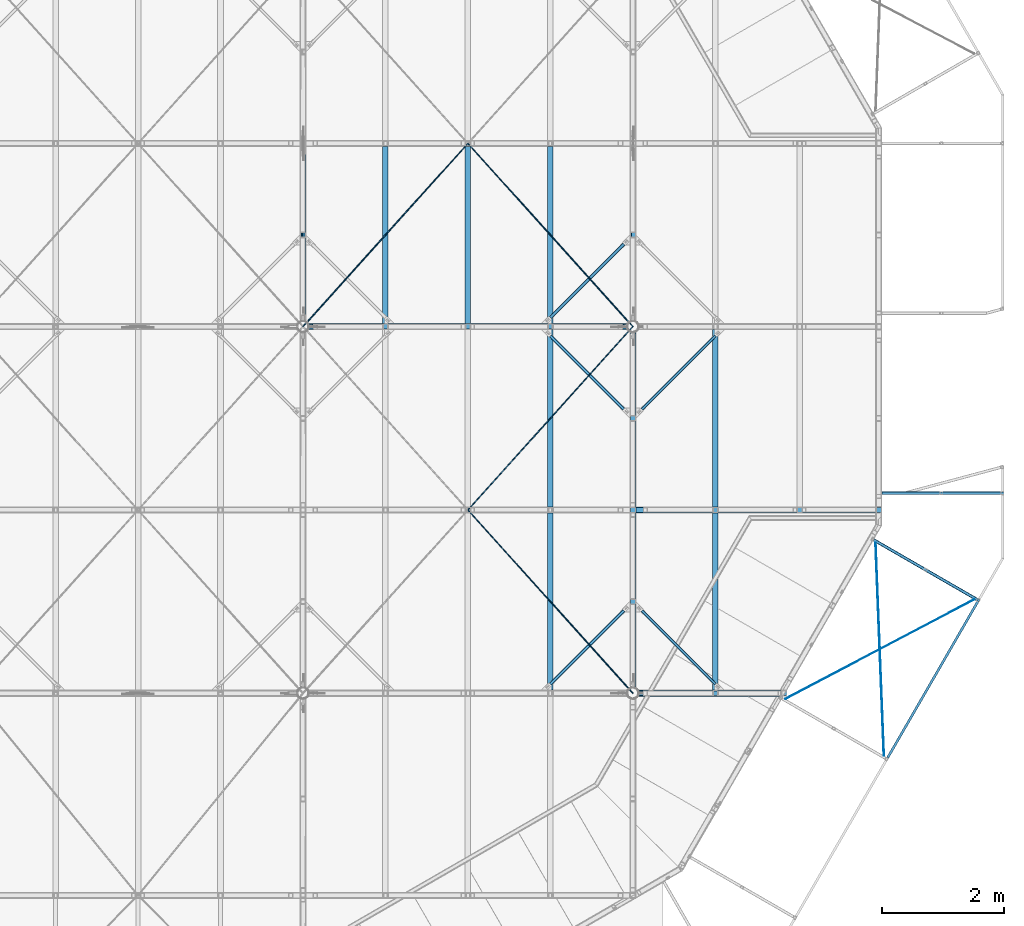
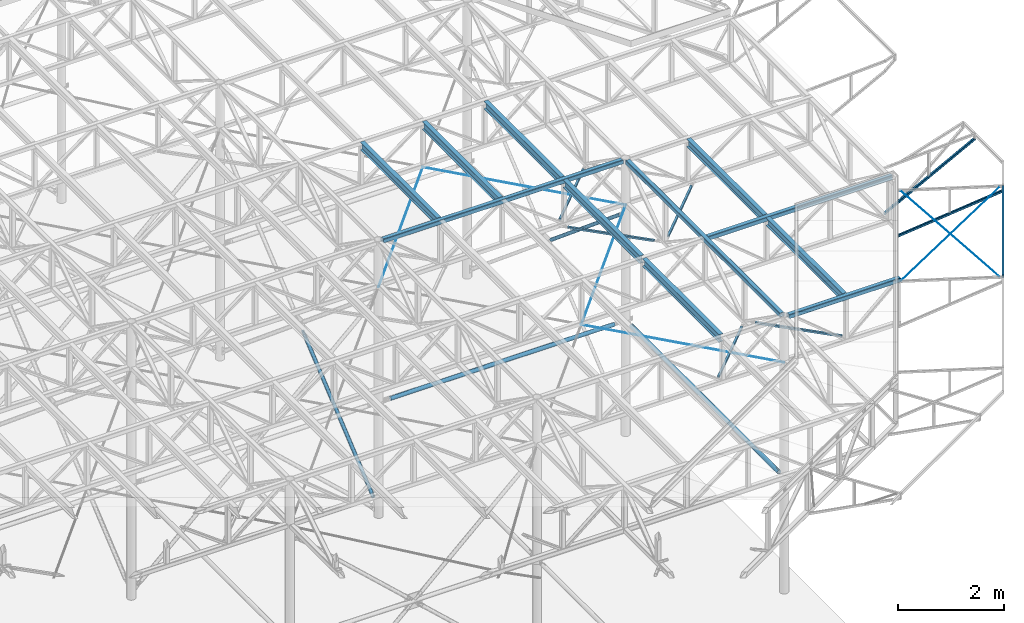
# One storey, part 14 of 132: 25 beams, 5 members, 30 elements without a shape of their own.
"""IFC2X3 building model written with IfcOpenShell, lengths in millimetres."""

from ifc_helpers import new_model, si_unit, frame, origin_with_axes, origin_2d_with_axis, place, context, subcontext, project, spatial, rectangle, hollow_rectangle, circle, hollow_circle, i_section, u_section, extrude, boolean, clip, halfspace, material, type_object, element, aggregate, save


model = new_model("IFC2X3")

# Units and contexts
model_context = context("Model", 3, precision=1e-05, world=origin_with_axes())
body_context = subcontext(model_context, "Body", "Model", "MODEL_VIEW")
ifc_project = project(units=[si_unit("LENGTHUNIT", "METRE", prefix="MILLI"), si_unit("AREAUNIT", "SQUARE_METRE"), si_unit("VOLUMEUNIT", "CUBIC_METRE"), si_unit("MASSUNIT", "GRAM", prefix="KILO"), si_unit("TIMEUNIT", "SECOND"), si_unit("PLANEANGLEUNIT", "RADIAN"), si_unit("SOLIDANGLEUNIT", "STERADIAN"), si_unit("THERMODYNAMICTEMPERATUREUNIT", "DEGREE_CELSIUS"), si_unit("LUMINOUSINTENSITYUNIT", "LUMEN")], contexts=[model_context])

# Site, building, storey
site_placement = place(None, origin_with_axes())
site = spatial("IfcSite", under=ifc_project, at=site_placement, Name="Budowa", CompositionType="ELEMENT")
building_placement = place(site_placement, origin_with_axes())
building = spatial("IfcBuilding", under=site, at=building_placement, Name="Undefined", CompositionType="ELEMENT")
storey_placement = place(building_placement, origin_with_axes())
storey = spatial("IfcBuildingStorey", under=building, at=storey_placement, Name="Undefined", CompositionType="ELEMENT", Elevation=0.0)

# Assembly, member
assembly_1_placement = place(storey_placement, origin_with_axes())
assembly_1 = element("IfcElementAssembly", 1, at=assembly_1_placement, inside=storey, Name="Steel Assembly", AssemblyPlace="NOTDEFINED", PredefinedType="RIGID_FRAME")
ifc_material_1 = material(Name="STEEL/S235JR")
member_type_1 = type_object("IfcMemberType", Name="CHS76.1*3", PredefinedType="NOTDEFINED")
member_1_placement = place(assembly_1_placement, frame((14833.000002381, 15000.0012512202, 10116.0002562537), z_axis=(-1.0, 0.0, 0.0), x_axis=(0.0, -0.769069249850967, -0.639165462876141)))
member_1 = element("IfcMember", 2, at=member_1_placement, type_object=member_type_1, material=ifc_material_1, Name="BEAM", ObjectType="CHS76.1*3", context=body_context, shape_type="CSG", body=[
    boolean("DIFFERENCE", boolean("DIFFERENCE", boolean("DIFFERENCE", boolean("DIFFERENCE", extrude(hollow_circle(Radius=38.05, WallThickness=3.0, at=origin_2d_with_axis()), frame((3633.55110961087, 0.0, 0.0), z_axis=(-1.0, 0.0, 0.0), x_axis=(0.0, -1.0, 0.0)), (0.0, 0.0, 1.0), 3395.69), extrude(rectangle(XDim=10.0, YDim=80.1, at=origin_2d_with_axis()), frame((318.860805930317, -8.477663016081e-13, 1.74539309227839e-06), z_axis=(-1.0, 0.0, 0.0), x_axis=(0.0, 0.0, 1.0)), (0.0, 0.0, 1.0), 83.0)), extrude(rectangle(XDim=10.0, YDim=78.0, at=origin_2d_with_axis()), frame((3552.55110960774, 4.53202460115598e-07, 2.41760790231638e-06), z_axis=(1.0, 0.0, 0.0), x_axis=(0.0, 0.0, 1.0)), (0.0, 0.0, 1.0), 93.0)), halfspace(frame((3633.55110960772, 4.53187567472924e-07, 12.0000024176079), z_axis=(-1.0, 0.0, 0.0), x_axis=(0.0, -1.0, 0.0)), True)), halfspace(frame((237.860802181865, 1.2732925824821e-11, 12.0000029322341), z_axis=(1.0, 0.0, 0.0), x_axis=(0.0, 1.0, 0.0)), True)),
])
aggregate(assembly_1, [member_1])

assembly_2_placement = place(storey_placement, origin_with_axes())
assembly_2 = element("IfcElementAssembly", 3, at=assembly_2_placement, inside=storey, Name="Steel Assembly", AssemblyPlace="NOTDEFINED", PredefinedType="RIGID_FRAME")
member_2_placement = place(assembly_2_placement, frame((20233.0000024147, 15000.0003165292, 10116.000758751), z_axis=(-1.0, 0.0, 0.0), x_axis=(0.0, -0.76906919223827, 0.639165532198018)))
member_2 = element("IfcMember", 4, at=member_2_placement, type_object=member_type_1, material=ifc_material_1, Name="BEAM", ObjectType="CHS76.1*3", context=body_context, shape_type="CSG", body=[
    boolean("DIFFERENCE", boolean("DIFFERENCE", boolean("DIFFERENCE", boolean("DIFFERENCE", extrude(hollow_circle(Radius=38.05, WallThickness=3.0, at=origin_2d_with_axis()), frame((3633.55016925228, 2.01702552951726e-13, 0.0), z_axis=(-1.0, 0.0, 0.0), x_axis=(0.0, -1.0, 0.0)), (0.0, 0.0, 1.0), 3395.69), extrude(rectangle(XDim=10.0, YDim=80.1, at=origin_2d_with_axis()), frame((318.860379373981, -4.43045600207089e-12, 2.01593366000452e-06), z_axis=(-1.0, 0.0, 0.0), x_axis=(0.0, 0.0, 1.0)), (0.0, 0.0, 1.0), 83.0)), extrude(rectangle(XDim=10.0, YDim=78.0, at=origin_2d_with_axis()), frame((3552.55016925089, 7.63649267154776e-08, 2.41727320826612e-06), z_axis=(1.0, 0.0, 0.0), x_axis=(0.0, 0.0, 1.0)), (0.0, 0.0, 1.0), 93.0)), halfspace(frame((3633.55016925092, 7.63648131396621e-08, 12.0000024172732), z_axis=(-1.0, 0.0, 0.0), x_axis=(0.0, -1.0, 0.0)), True)), halfspace(frame((237.860375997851, -1.09139364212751e-11, 12.0000032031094), z_axis=(1.0, 0.0, 0.0), x_axis=(0.0, 1.0, 0.0)), True)),
])
aggregate(assembly_2, [member_2])

# Assembly, beam
assembly_3_placement = place(storey_placement, origin_with_axes())
assembly_3 = element("IfcElementAssembly", 5, at=assembly_3_placement, inside=storey, Name="Steel Assembly", AssemblyPlace="NOTDEFINED", PredefinedType="RIGID_FRAME")
beam_type_1 = type_object("IfcBeamType", Name="CHS88.9*3", PredefinedType="NOTDEFINED")
beam_1_placement = place(assembly_3_placement, frame((14913.9011382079, 11998.0000028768, 10116.0003779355), z_axis=(0.0, -1.0, 0.0), x_axis=(1.0, 0.0, 0.0)))
beam_1 = element("IfcBeam", 6, at=beam_1_placement, type_object=beam_type_1, material=ifc_material_1, Name="BEAM", ObjectType="CHS88.9*3", context=body_context, shape_type="CSG", body=[
    boolean("DIFFERENCE", boolean("DIFFERENCE", boolean("DIFFERENCE", boolean("DIFFERENCE", boolean("DIFFERENCE", extrude(hollow_circle(Radius=44.45, WallThickness=3.0, at=origin_2d_with_axis()), frame((5057.96216744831, 0.0, 0.0), z_axis=(-1.0, 0.0, 0.0), x_axis=(0.0, -1.0, 0.0)), (0.0, 0.0, 1.0), 4893.73), extrude(rectangle(XDim=9.0, YDim=92.9, at=origin_2d_with_axis()), frame((265.235555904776, 1.81898940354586e-12, 3.42543353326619e-06), z_axis=(-1.0, 0.0, 0.0), x_axis=(0.0, 0.0, 1.0)), (0.0, 0.0, 1.0), 103.0)), extrude(rectangle(XDim=9.0, YDim=92.9, at=origin_2d_with_axis()), frame((4956.96216744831, 1.81898940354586e-12, 3.42543353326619e-06), z_axis=(1.0, 0.0, 0.0), x_axis=(0.0, 0.0, -1.0)), (0.0, 0.0, 1.0), 103.0)), extrude(rectangle(XDim=8.0, YDim=80.1, at=origin_2d_with_axis()), frame((5006.96216666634, 0.0, 2.93223274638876e-06), z_axis=(1.0, 0.0, 0.0), x_axis=(0.0, 0.0, 1.0)), (0.0, 0.0, 1.0), 82.0)), halfspace(frame((5057.96216744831, 1.81898940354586e-12, -11.9999965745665), z_axis=(-1.0, 0.0, 0.0), x_axis=(0.0, 1.0, 0.0)), True)), halfspace(frame((164.235555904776, 1.81898940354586e-12, -11.9999965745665), z_axis=(1.0, 0.0, 0.0), x_axis=(0.0, 0.0, 1.0)), True)),
])
aggregate(assembly_3, [beam_1])

assembly_4_placement = place(storey_placement, origin_with_axes())
assembly_4 = element("IfcElementAssembly", 7, at=assembly_4_placement, inside=storey, Name="Steel Assembly", AssemblyPlace="NOTDEFINED", PredefinedType="RIGID_FRAME")
beam_2_placement = place(assembly_4_placement, frame((20232.9999935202, 6088.90000004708, 10116.0003779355), z_axis=(1.0, 0.0, 0.0), x_axis=(0.0, 1.0, 0.0)))
beam_2 = element("IfcBeam", 8, at=beam_2_placement, type_object=beam_type_1, material=ifc_material_1, Name="BEAM", ObjectType="CHS88.9*3", context=body_context, shape_type="CSG", body=[
    boolean("DIFFERENCE", boolean("DIFFERENCE", boolean("DIFFERENCE", boolean("DIFFERENCE", extrude(hollow_circle(Radius=44.45, WallThickness=3.0, at=origin_2d_with_axis()), frame((5703.19209466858, 0.0, 0.0), z_axis=(-1.0, 0.0, 0.0), x_axis=(0.0, -1.0, 0.0)), (0.0, 0.0, 1.0), 5584.18), extrude(rectangle(XDim=9.0, YDim=92.9, at=origin_2d_with_axis()), frame((5602.19209466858, 0.0, 3.70549059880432e-06), z_axis=(1.0, 0.0, 0.0), x_axis=(0.0, 0.0, -1.0)), (0.0, 0.0, 1.0), 103.0)), extrude(rectangle(XDim=9.0, YDim=92.9, at=origin_2d_with_axis()), frame((220.00790537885, 0.0, 3.42542261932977e-06), z_axis=(-1.0, 0.0, 0.0), x_axis=(0.0, 0.0, -1.0)), (0.0, 0.0, 1.0), 103.0)), halfspace(frame((5703.19209466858, 0.0, -11.9999962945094), z_axis=(-1.0, 0.0, 0.0), x_axis=(0.0, 1.0, 0.0)), True)), halfspace(frame((119.00790537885, 0.0, -11.9999965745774), z_axis=(1.0, 0.0, 0.0), x_axis=(0.0, -1.0, 0.0)), True)),
])
aggregate(assembly_4, [beam_2])

# Assembly, member
assembly_5_placement = place(storey_placement, origin_with_axes())
assembly_5 = element("IfcElementAssembly", 9, at=assembly_5_placement, inside=storey, Name="Steel Assembly", AssemblyPlace="NOTDEFINED", PredefinedType="RIGID_FRAME")
ifc_material_2 = material(Name="STEEL/S235")
member_type_2 = type_object("IfcMemberType", Name="CHS60.3*6.3", PredefinedType="NOTDEFINED")
member_3_placement = place(assembly_5_placement, frame((14833.000002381, 15000.0012512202, 10116.0002562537), z_axis=(-1.0, 0.0, 0.0), x_axis=(0.0, -0.769069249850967, -0.639165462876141)))
member_3 = element("IfcMember", 10, at=member_3_placement, type_object=member_type_2, material=ifc_material_2, Name="BEAM", ObjectType="CHS60.3*6.3", context=body_context, shape_type="CSG", body=[
    boolean("DIFFERENCE", boolean("DIFFERENCE", boolean("DIFFERENCE", boolean("DIFFERENCE", extrude(hollow_circle(Radius=30.15, WallThickness=6.3, at=origin_2d_with_axis()), frame((3643.55110941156, 0.0, 0.0), z_axis=(-1.0, 0.0, 0.0), x_axis=(0.0, -1.0, 0.0)), (0.0, 0.0, 1.0), 3497.1), extrude(rectangle(XDim=8.0, YDim=64.3, at=origin_2d_with_axis()), frame((3593.55110940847, -4.69471128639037e-11, 2.68942449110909e-06), z_axis=(1.0, 0.0, 0.0), x_axis=(0.0, 0.0, 1.0)), (0.0, 0.0, 1.0), 52.0)), extrude(rectangle(XDim=8.0, YDim=64.3, at=origin_2d_with_axis()), frame((196.449653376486, -1.06803454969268e-13, 2.32343882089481e-06), z_axis=(-1.0, 0.0, 0.0), x_axis=(0.0, 0.0, 1.0)), (0.0, 0.0, 1.0), 52.0)), halfspace(frame((3643.55110940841, -4.72937244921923e-11, 12.0000026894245), z_axis=(-1.0, 0.0, 0.0), x_axis=(0.0, -1.0, 0.0)), True)), halfspace(frame((146.449653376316, -6.3664629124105e-12, 12.0000023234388), z_axis=(1.0, 0.0, 0.0), x_axis=(0.0, 1.0, 0.0)), True)),
])
aggregate(assembly_5, [member_3])

# Assembly, beam
assembly_6_placement = place(storey_placement, origin_with_axes())
assembly_6 = element("IfcElementAssembly", 11, at=assembly_6_placement, inside=storey, Name="Steel Assembly", AssemblyPlace="NOTDEFINED", PredefinedType="RIGID_FRAME")
beam_type_2 = type_object("IfcBeamType", Name="IPE180", PredefinedType="NOTDEFINED")
beam_3_placement = place(assembly_6_placement, frame((21573.8999999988, 9050.0000000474, 13790.0), z_axis=(0.0, 0.0, 1.0), x_axis=(0.0, 1.0, 0.0)))
beam_3 = element("IfcBeam", 12, at=beam_3_placement, type_object=beam_type_2, material=ifc_material_2, Name="BEAM", ObjectType="IPE180", context=body_context, shape_type="SweptSolid", body=[
    extrude(i_section(OverallWidth=91.0, OverallDepth=180.0, WebThickness=5.300000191, FlangeThickness=8.0, FilletRadius=9.0, at=origin_2d_with_axis()), frame((2900.00000000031, 0.0, 0.0), z_axis=(-1.0, 0.0, 0.0), x_axis=(0.0, -1.0, 0.0)), (0.0, 0.0, 1.0), 2900.0),
])
aggregate(assembly_6, [beam_3])

assembly_7_placement = place(storey_placement, origin_with_axes())
assembly_7 = element("IfcElementAssembly", 13, at=assembly_7_placement, inside=storey, Name="Steel Assembly", AssemblyPlace="NOTDEFINED", PredefinedType="RIGID_FRAME")
beam_4_placement = place(assembly_7_placement, frame((21573.8999999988, 6050.00000004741, 13790.0), z_axis=(0.0, 0.0, 1.0), x_axis=(0.0, 1.0, 0.0)))
beam_4 = element("IfcBeam", 14, at=beam_4_placement, type_object=beam_type_2, material=ifc_material_2, Name="BEAM", ObjectType="IPE180", context=body_context, shape_type="SweptSolid", body=[
    extrude(i_section(OverallWidth=91.0, OverallDepth=180.0, WebThickness=5.300000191, FlangeThickness=8.0, FilletRadius=9.0, at=origin_2d_with_axis()), frame((2900.00000000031, 0.0, 0.0), z_axis=(-1.0, 0.0, 0.0), x_axis=(0.0, -1.0, 0.0)), (0.0, 0.0, 1.0), 2900.0),
])
aggregate(assembly_7, [beam_4])

assembly_8_placement = place(storey_placement, origin_with_axes())
assembly_8 = element("IfcElementAssembly", 15, at=assembly_8_placement, inside=storey, Name="Steel Assembly", AssemblyPlace="NOTDEFINED", PredefinedType="RIGID_FRAME")
beam_5_placement = place(assembly_8_placement, frame((16174.9999999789, 12050.000000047, 13790.0), z_axis=(0.0, 0.0, 1.0), x_axis=(0.0, 1.0, 0.0)))
beam_5 = element("IfcBeam", 16, at=beam_5_placement, type_object=beam_type_2, material=ifc_material_2, Name="BEAM", ObjectType="IPE180", context=body_context, shape_type="SweptSolid", body=[
    extrude(i_section(OverallWidth=91.0, OverallDepth=180.0, WebThickness=5.300000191, FlangeThickness=8.0, FilletRadius=9.0, at=origin_2d_with_axis()), frame((2900.00000000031, 0.0, 0.0), z_axis=(-1.0, 0.0, 0.0), x_axis=(0.0, -1.0, 0.0)), (0.0, 0.0, 1.0), 2900.0),
])
aggregate(assembly_8, [beam_5])

assembly_9_placement = place(storey_placement, origin_with_axes())
assembly_9 = element("IfcElementAssembly", 17, at=assembly_9_placement, inside=storey, Name="Steel Assembly", AssemblyPlace="NOTDEFINED", PredefinedType="RIGID_FRAME")
beam_6_placement = place(assembly_9_placement, frame((18874.9999999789, 12050.000000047, 13790.0), z_axis=(0.0, 0.0, 1.0), x_axis=(0.0, 1.0, 0.0)))
beam_6 = element("IfcBeam", 18, at=beam_6_placement, type_object=beam_type_2, material=ifc_material_2, Name="BEAM", ObjectType="IPE180", context=body_context, shape_type="SweptSolid", body=[
    extrude(i_section(OverallWidth=91.0, OverallDepth=180.0, WebThickness=5.300000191, FlangeThickness=8.0, FilletRadius=9.0, at=origin_2d_with_axis()), frame((2900.00000000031, 0.0, 0.0), z_axis=(-1.0, 0.0, 0.0), x_axis=(0.0, -1.0, 0.0)), (0.0, 0.0, 1.0), 2900.0),
])
aggregate(assembly_9, [beam_6])

assembly_10_placement = place(storey_placement, origin_with_axes())
assembly_10 = element("IfcElementAssembly", 19, at=assembly_10_placement, inside=storey, Name="Steel Assembly", AssemblyPlace="NOTDEFINED", PredefinedType="RIGID_FRAME")
beam_7_placement = place(assembly_10_placement, frame((18874.9999999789, 9050.00000004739, 13790.0), z_axis=(0.0, 0.0, 1.0), x_axis=(0.0, 1.0, 0.0)))
beam_7 = element("IfcBeam", 20, at=beam_7_placement, type_object=beam_type_2, material=ifc_material_2, Name="BEAM", ObjectType="IPE180", context=body_context, shape_type="SweptSolid", body=[
    extrude(i_section(OverallWidth=91.0, OverallDepth=180.0, WebThickness=5.300000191, FlangeThickness=8.0, FilletRadius=9.0, at=origin_2d_with_axis()), frame((2900.00000000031, 0.0, 0.0), z_axis=(-1.0, 0.0, 0.0), x_axis=(0.0, -1.0, 0.0)), (0.0, 0.0, 1.0), 2900.0),
])
aggregate(assembly_10, [beam_7])

assembly_11_placement = place(storey_placement, origin_with_axes())
assembly_11 = element("IfcElementAssembly", 21, at=assembly_11_placement, inside=storey, Name="Steel Assembly", AssemblyPlace="NOTDEFINED", PredefinedType="RIGID_FRAME")
beam_8_placement = place(assembly_11_placement, frame((18874.9999999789, 6050.00000004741, 13790.0), z_axis=(0.0, 0.0, 1.0), x_axis=(0.0, 1.0, 0.0)))
beam_8 = element("IfcBeam", 22, at=beam_8_placement, type_object=beam_type_2, material=ifc_material_2, Name="BEAM", ObjectType="IPE180", context=body_context, shape_type="SweptSolid", body=[
    extrude(i_section(OverallWidth=91.0, OverallDepth=180.0, WebThickness=5.300000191, FlangeThickness=8.0, FilletRadius=9.0, at=origin_2d_with_axis()), frame((2900.00000000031, 0.0, 0.0), z_axis=(-1.0, 0.0, 0.0), x_axis=(0.0, -1.0, 0.0)), (0.0, 0.0, 1.0), 2900.0),
])
aggregate(assembly_11, [beam_8])

assembly_12_placement = place(storey_placement, origin_with_axes())
assembly_12 = element("IfcElementAssembly", 23, at=assembly_12_placement, inside=storey, Name="Steel Assembly", AssemblyPlace="NOTDEFINED", PredefinedType="RIGID_FRAME")
beam_9_placement = place(assembly_12_placement, frame((17524.9999999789, 12050.000000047, 13790.0), z_axis=(0.0, 0.0, 1.0), x_axis=(0.0, 1.0, 0.0)))
beam_9 = element("IfcBeam", 24, at=beam_9_placement, type_object=beam_type_2, material=ifc_material_2, Name="BEAM", ObjectType="IPE180", context=body_context, shape_type="SweptSolid", body=[
    extrude(i_section(OverallWidth=91.0, OverallDepth=180.0, WebThickness=5.300000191, FlangeThickness=8.0, FilletRadius=9.0, at=origin_2d_with_axis()), frame((2900.00000000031, 0.0, 0.0), z_axis=(-1.0, 0.0, 0.0), x_axis=(0.0, -1.0, 0.0)), (0.0, 0.0, 1.0), 2900.0),
])
aggregate(assembly_12, [beam_9])

assembly_13_placement = place(storey_placement, origin_with_axes())
assembly_13 = element("IfcElementAssembly", 25, at=assembly_13_placement, inside=storey, Name="Steel Assembly", AssemblyPlace="NOTDEFINED", PredefinedType="RIGID_FRAME")
beam_type_3 = type_object("IfcBeamType", Name="D10", PredefinedType="NOTDEFINED")
beam_10_placement = place(assembly_13_placement, frame((24335.3137186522, 4977.60334072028, 13945.5281319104), z_axis=(-0.0432481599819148, 0.0249672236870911, 0.998752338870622), x_axis=(-0.0391284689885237, 0.998878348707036, -0.0266647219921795)))
beam_10 = element("IfcBeam", 26, at=beam_10_placement, type_object=beam_type_3, material=ifc_material_2, Name="BEAM", ObjectType="D10", context=body_context, shape_type="SweptSolid", body=[
    extrude(circle(Radius=5.0, at=origin_2d_with_axis()), frame((3489.02120950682, 1.67199953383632e-13, 1.2104974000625e-14), z_axis=(-1.0, 0.0, 0.0), x_axis=(0.0, -1.0, 0.0)), (0.0, 0.0, 1.0), 3489.02),
])
aggregate(assembly_13, [beam_10])

assembly_14_placement = place(storey_placement, origin_with_axes())
assembly_14 = element("IfcElementAssembly", 27, at=assembly_14_placement, inside=storey, Name="Steel Assembly", AssemblyPlace="NOTDEFINED", PredefinedType="RIGID_FRAME")
beam_11_placement = place(assembly_14_placement, frame((25810.2200973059, 7532.43233197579, 13945.5281319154), z_axis=(-0.0432481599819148, 0.0249672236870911, 0.998752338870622), x_axis=(-0.884584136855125, -0.465617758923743, -0.026664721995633)))
beam_11 = element("IfcBeam", 28, at=beam_11_placement, type_object=beam_type_3, material=ifc_material_2, Name="BEAM", ObjectType="D10", context=body_context, shape_type="SweptSolid", body=[
    extrude(circle(Radius=5.0, at=origin_2d_with_axis()), frame((3489.02120950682, 1.67199953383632e-13, 1.2104974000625e-14), z_axis=(-1.0, 0.0, 0.0), x_axis=(0.0, -1.0, 0.0)), (0.0, 0.0, 1.0), 3489.02),
])
aggregate(assembly_14, [beam_11])

assembly_15_placement = place(storey_placement, origin_with_axes())
assembly_15 = element("IfcElementAssembly", 29, at=assembly_15_placement, inside=storey, Name="Steel Assembly", AssemblyPlace="NOTDEFINED", PredefinedType="RIGID_FRAME")
beam_type_4 = type_object("IfcBeamType", Name="C70*40*4", PredefinedType="NOTDEFINED")
beam_12_placement = place(assembly_15_placement, frame((24395.4282589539, 4942.89913146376, 13945.0050192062), z_axis=(0.0, 0.0, -1.0), x_axis=(0.499968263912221, 0.86604372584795, 0.0)))
beam_12 = element("IfcBeam", 30, at=beam_12_placement, type_object=beam_type_4, material=ifc_material_2, Name="BEAM", ObjectType="C70*40*4", context=body_context, shape_type="SweptSolid", body=[
    extrude(u_section(Depth=70.0, FlangeWidth=40.0, WebThickness=4.0, FlangeThickness=4.0, FilletRadius=6.0, at=origin_2d_with_axis()), frame((2949.99999995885, 1.63757896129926e-13, 0.0), z_axis=(-1.0, 0.0, 0.0), x_axis=(0.0, -1.0, 0.0)), (0.0, 0.0, 1.0), 2950.0),
])
aggregate(assembly_15, [beam_12])

# Assembly, member
assembly_16_placement = place(storey_placement, origin_with_axes())
assembly_16 = element("IfcElementAssembly", 31, at=assembly_16_placement, inside=storey, Name="Steel Assembly", AssemblyPlace="NOTDEFINED", PredefinedType="RIGID_FRAME")
member_type_3 = type_object("IfcMemberType", Name="SHS50*4", PredefinedType="NOTDEFINED")
member_4_placement = place(assembly_16_placement, frame((24288.2796111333, 9275.0435519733, 12802.1351883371), z_axis=(0.0, 1.0, 0.0), x_axis=(0.885407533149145, 0.0, 0.464815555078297)))
member_4 = element("IfcMember", 32, at=member_4_placement, type_object=member_type_3, material=ifc_material_2, Name="BEAM", ObjectType="SHS50*4", context=body_context, shape_type="Clipping", body=[
    clip(clip(extrude(hollow_rectangle(XDim=50.0, YDim=50.0, WallThickness=4.0, InnerFilletRadius=4.0, OuterFilletRadius=8.0, at=origin_2d_with_axis()), frame((2286.55526217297, 7.105427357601e-15, -1.81898940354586e-12), z_axis=(-1.0, 0.0, 0.0), x_axis=(0.0, -1.0, 0.0)), (0.0, 0.0, 1.0), 2286.56), halfspace(frame((26.2486785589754, -24.9999999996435, -25.0000000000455), z_axis=(-0.885407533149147, -0.464815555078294, 0.0), x_axis=(-0.464815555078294, 0.885407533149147, 0.0)), False)), halfspace(frame((2258.9602037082, 25.0000000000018, -1.41881173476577e-10), z_axis=(-0.855808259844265, 0.517293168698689, 0.0), x_axis=(0.0, 0.0, 1.0)), True)),
])
aggregate(assembly_16, [member_4])

assembly_17_placement = place(storey_placement, origin_with_axes())
assembly_17 = element("IfcElementAssembly", 33, at=assembly_17_placement, inside=storey, Name="Steel Assembly", AssemblyPlace="NOTDEFINED", PredefinedType="RIGID_FRAME")
member_5_placement = place(assembly_17_placement, frame((24157.91849754, 8515.17963885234, 12802.1351883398), z_axis=(-0.499969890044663, -0.866042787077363, 0.0), x_axis=(0.766800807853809, -0.442677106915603, 0.464815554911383)))
member_5 = element("IfcMember", 34, at=member_5_placement, type_object=member_type_3, material=ifc_material_2, Name="BEAM", ObjectType="SHS50*4", context=body_context, shape_type="Clipping", body=[
    clip(clip(extrude(hollow_rectangle(XDim=50.0, YDim=50.0, WallThickness=4.0, InnerFilletRadius=4.0, OuterFilletRadius=8.0, at=origin_2d_with_axis()), frame((2325.27637080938, 1.2907876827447e-13, 5.21059351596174e-14), z_axis=(-1.0, 0.0, 0.0), x_axis=(0.0, -1.0, 0.0)), (0.0, 0.0, 1.0), 2325.28), halfspace(frame((26.2486785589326, 24.9999999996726, -25.0000000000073), z_axis=(-0.885407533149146, 0.464815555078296, 0.0), x_axis=(0.0, 0.0, 1.0)), False)), halfspace(frame((2258.9602037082, -25.0000000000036, -1.40062184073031e-10), z_axis=(-0.855808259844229, -0.517293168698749, 0.0), x_axis=(0.0, 0.0, -1.0)), True)),
])
aggregate(assembly_17, [member_5])

# Assembly, beam
assembly_18_placement = place(storey_placement, origin_with_axes())
assembly_18 = element("IfcElementAssembly", 35, at=assembly_18_placement, inside=storey, Name="Steel Assembly", AssemblyPlace="NOTDEFINED", PredefinedType="RIGID_FRAME")
beam_type_5 = type_object("IfcBeamType", Name="D16", PredefinedType="NOTDEFINED")
beam_13_placement = place(assembly_18_placement, frame((17524.999998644, 15000.0000000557, 12780.0), z_axis=(0.0, 0.0, 1.0), x_axis=(-0.668964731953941, -0.743294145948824, 0.0)))
beam_13 = element("IfcBeam", 36, at=beam_13_placement, type_object=beam_type_5, material=ifc_material_2, Name="BEAM", ObjectType="D16", context=body_context, shape_type="SweptSolid", body=[
    extrude(circle(Radius=8.0, at=origin_2d_with_axis()), frame((4036.08721501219, 2.30699503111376e-13, 1.81898940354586e-12), z_axis=(-1.0, 0.0, 0.0), x_axis=(0.0, -1.0, 0.0)), (0.0, 0.0, 1.0), 4036.09),
])
aggregate(assembly_18, [beam_13])

assembly_19_placement = place(storey_placement, origin_with_axes())
assembly_19 = element("IfcElementAssembly", 37, at=assembly_19_placement, inside=storey, Name="Steel Assembly", AssemblyPlace="NOTDEFINED", PredefinedType="RIGID_FRAME")
beam_14_placement = place(assembly_19_placement, frame((20224.9999999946, 12000.0000000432, 12780.0), z_axis=(0.0, 0.0, 1.0), x_axis=(-0.668964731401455, 0.743294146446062, 0.0)))
beam_14 = element("IfcBeam", 38, at=beam_14_placement, type_object=beam_type_5, material=ifc_material_2, Name="BEAM", ObjectType="D16", context=body_context, shape_type="SweptSolid", body=[
    extrude(circle(Radius=8.0, at=origin_2d_with_axis()), frame((4036.08721501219, 2.30699503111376e-13, 1.81898940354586e-12), z_axis=(-1.0, 0.0, 0.0), x_axis=(0.0, -1.0, 0.0)), (0.0, 0.0, 1.0), 4036.09),
])
aggregate(assembly_19, [beam_14])

assembly_20_placement = place(storey_placement, origin_with_axes())
assembly_20 = element("IfcElementAssembly", 39, at=assembly_20_placement, inside=storey, Name="Steel Assembly", AssemblyPlace="NOTDEFINED", PredefinedType="RIGID_FRAME")
beam_15_placement = place(assembly_20_placement, frame((20224.9999999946, 12000.0000000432, 12780.0), z_axis=(0.0, 0.0, 1.0), x_axis=(-0.668964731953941, -0.743294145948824, 0.0)))
beam_15 = element("IfcBeam", 40, at=beam_15_placement, type_object=beam_type_5, material=ifc_material_2, Name="BEAM", ObjectType="D16", context=body_context, shape_type="SweptSolid", body=[
    extrude(circle(Radius=8.0, at=origin_2d_with_axis()), frame((4036.08721501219, 2.30699503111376e-13, 1.81898940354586e-12), z_axis=(-1.0, 0.0, 0.0), x_axis=(0.0, -1.0, 0.0)), (0.0, 0.0, 1.0), 4036.09),
])
aggregate(assembly_20, [beam_15])

assembly_21_placement = place(storey_placement, origin_with_axes())
assembly_21 = element("IfcElementAssembly", 41, at=assembly_21_placement, inside=storey, Name="Steel Assembly", AssemblyPlace="NOTDEFINED", PredefinedType="RIGID_FRAME")
beam_16_placement = place(assembly_21_placement, frame((20224.9999999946, 6000.00000004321, 12780.0), z_axis=(0.0, 0.0, 1.0), x_axis=(-0.668964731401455, 0.743294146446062, 0.0)))
beam_16 = element("IfcBeam", 42, at=beam_16_placement, type_object=beam_type_5, material=ifc_material_2, Name="BEAM", ObjectType="D16", context=body_context, shape_type="SweptSolid", body=[
    extrude(circle(Radius=8.0, at=origin_2d_with_axis()), frame((4036.08721501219, 2.30699503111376e-13, 1.81898940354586e-12), z_axis=(-1.0, 0.0, 0.0), x_axis=(0.0, -1.0, 0.0)), (0.0, 0.0, 1.0), 4036.09),
])
aggregate(assembly_21, [beam_16])

assembly_22_placement = place(storey_placement, origin_with_axes())
assembly_22 = element("IfcElementAssembly", 43, at=assembly_22_placement, inside=storey, Name="Steel Assembly", AssemblyPlace="NOTDEFINED", PredefinedType="RIGID_FRAME")
beam_type_6 = type_object("IfcBeamType", Name="SHS50*5", PredefinedType="NOTDEFINED")
beam_17_placement = place(assembly_22_placement, frame((19975.0000000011, 7749.80000010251, 12830.0), z_axis=(0.0, 0.0, 1.0), x_axis=(0.707106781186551, -0.707106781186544, 0.0)))
beam_17 = element("IfcBeam", 44, at=beam_17_placement, type_object=beam_type_6, material=ifc_material_2, Name="BEAM", ObjectType="SHS50*5", context=body_context, shape_type="Clipping", body=[
    clip(clip(extrude(hollow_rectangle(XDim=50.0, YDim=50.0, WallThickness=5.0, InnerFilletRadius=5.0, OuterFilletRadius=10.0, at=origin_2d_with_axis()), frame((2264.08122086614, 0.0, 0.0), z_axis=(-1.0, 0.0, 0.0), x_axis=(0.0, -1.0, 0.0)), (0.0, 0.0, 1.0), 1700.02), halfspace(frame((2264.08122086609, 9.09494701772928e-11, -9.0), z_axis=(-1.0, 0.0, 0.0), x_axis=(0.0, 1.0, 0.0)), True)), halfspace(frame((564.063061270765, -1.43882061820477e-09, -8.99999999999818), z_axis=(1.0, 0.0, 0.0), x_axis=(0.0, -1.0, 0.0)), True)),
])
aggregate(assembly_22, [beam_17])

assembly_23_placement = place(storey_placement, origin_with_axes())
assembly_23 = element("IfcElementAssembly", 45, at=assembly_23_placement, inside=storey, Name="Steel Assembly", AssemblyPlace="NOTDEFINED", PredefinedType="RIGID_FRAME")
beam_18_placement = place(assembly_23_placement, frame((20475.0000000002, 7749.80000010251, 12830.0), z_axis=(0.0, 0.0, 1.0), x_axis=(-0.70710678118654, -0.707106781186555, 0.0)))
beam_18 = element("IfcBeam", 46, at=beam_18_placement, type_object=beam_type_6, material=ifc_material_2, Name="BEAM", ObjectType="SHS50*5", context=body_context, shape_type="Clipping", body=[
    clip(clip(extrude(hollow_rectangle(XDim=50.0, YDim=50.0, WallThickness=5.0, InnerFilletRadius=5.0, OuterFilletRadius=10.0, at=origin_2d_with_axis()), frame((2264.08122086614, 0.0, 0.0), z_axis=(-1.0, 0.0, 0.0), x_axis=(0.0, -1.0, 0.0)), (0.0, 0.0, 1.0), 1700.02), halfspace(frame((2264.08122086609, 9.09494701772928e-11, -9.0), z_axis=(-1.0, 0.0, 0.0), x_axis=(0.0, 1.0, 0.0)), True)), halfspace(frame((564.063061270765, -1.43882061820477e-09, -8.99999999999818), z_axis=(1.0, 0.0, 0.0), x_axis=(0.0, -1.0, 0.0)), True)),
])
aggregate(assembly_23, [beam_18])

assembly_24_placement = place(storey_placement, origin_with_axes())
assembly_24 = element("IfcElementAssembly", 47, at=assembly_24_placement, inside=storey, Name="Steel Assembly", AssemblyPlace="NOTDEFINED", PredefinedType="RIGID_FRAME")
beam_19_placement = place(assembly_24_placement, frame((19975.0000000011, 10250.0000000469, 12830.0), z_axis=(0.0, 0.0, 1.0), x_axis=(0.707106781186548, 0.707106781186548, 0.0)))
beam_19 = element("IfcBeam", 48, at=beam_19_placement, type_object=beam_type_6, material=ifc_material_2, Name="BEAM", ObjectType="SHS50*5", context=body_context, shape_type="Clipping", body=[
    clip(clip(extrude(hollow_rectangle(XDim=50.0, YDim=50.0, WallThickness=5.0, InnerFilletRadius=5.0, OuterFilletRadius=10.0, at=origin_2d_with_axis()), frame((2264.36406349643, -1.81898940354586e-12, 1.81898940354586e-12), z_axis=(-1.0, 0.0, 0.0), x_axis=(0.0, -1.0, 0.0)), (0.0, 0.0, 1.0), 1700.3), halfspace(frame((2264.36406350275, 1.44245859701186e-09, -8.99999999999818), z_axis=(-1.0, 0.0, 0.0), x_axis=(0.0, 1.0, 0.0)), True)), halfspace(frame((564.063061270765, -1.43882061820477e-09, -8.99999999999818), z_axis=(1.0, 0.0, 0.0), x_axis=(0.0, -1.0, 0.0)), True)),
])
aggregate(assembly_24, [beam_19])

assembly_25_placement = place(storey_placement, origin_with_axes())
assembly_25 = element("IfcElementAssembly", 49, at=assembly_25_placement, inside=storey, Name="Steel Assembly", AssemblyPlace="NOTDEFINED", PredefinedType="RIGID_FRAME")
beam_20_placement = place(assembly_25_placement, frame((20475.0000000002, 13749.8000001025, 12830.0), z_axis=(0.0, 0.0, 1.0), x_axis=(-0.70710678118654, -0.707106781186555, 0.0)))
beam_20 = element("IfcBeam", 50, at=beam_20_placement, type_object=beam_type_6, material=ifc_material_2, Name="BEAM", ObjectType="SHS50*5", context=body_context, shape_type="Clipping", body=[
    clip(clip(extrude(hollow_rectangle(XDim=50.0, YDim=50.0, WallThickness=5.0, InnerFilletRadius=5.0, OuterFilletRadius=10.0, at=origin_2d_with_axis()), frame((2264.08122086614, 0.0, 0.0), z_axis=(-1.0, 0.0, 0.0), x_axis=(0.0, -1.0, 0.0)), (0.0, 0.0, 1.0), 1700.02), halfspace(frame((2264.08122086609, 9.09494701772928e-11, -9.0), z_axis=(-1.0, 0.0, 0.0), x_axis=(0.0, 1.0, 0.0)), True)), halfspace(frame((564.063061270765, -1.43882061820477e-09, -8.99999999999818), z_axis=(1.0, 0.0, 0.0), x_axis=(0.0, -1.0, 0.0)), True)),
])
aggregate(assembly_25, [beam_20])

assembly_26_placement = place(storey_placement, origin_with_axes())
assembly_26 = element("IfcElementAssembly", 51, at=assembly_26_placement, inside=storey, Name="Steel Assembly", AssemblyPlace="NOTDEFINED", PredefinedType="RIGID_FRAME")
beam_21_placement = place(assembly_26_placement, frame((20475.0000000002, 10250.0000000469, 12830.0), z_axis=(0.0, 0.0, 1.0), x_axis=(-0.707106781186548, 0.707106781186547, 0.0)))
beam_21 = element("IfcBeam", 52, at=beam_21_placement, type_object=beam_type_6, material=ifc_material_2, Name="BEAM", ObjectType="SHS50*5", context=body_context, shape_type="Clipping", body=[
    clip(clip(extrude(hollow_rectangle(XDim=50.0, YDim=50.0, WallThickness=5.0, InnerFilletRadius=5.0, OuterFilletRadius=10.0, at=origin_2d_with_axis()), frame((2264.36406349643, -1.81898940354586e-12, 1.81898940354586e-12), z_axis=(-1.0, 0.0, 0.0), x_axis=(0.0, -1.0, 0.0)), (0.0, 0.0, 1.0), 1700.3), halfspace(frame((2264.36406350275, 1.44245859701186e-09, -8.99999999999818), z_axis=(-1.0, 0.0, 0.0), x_axis=(0.0, 1.0, 0.0)), True)), halfspace(frame((564.063061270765, -1.43882061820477e-09, -8.99999999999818), z_axis=(1.0, 0.0, 0.0), x_axis=(0.0, -1.0, 0.0)), True)),
])
aggregate(assembly_26, [beam_21])

assembly_27_placement = place(storey_placement, origin_with_axes())
assembly_27 = element("IfcElementAssembly", 53, at=assembly_27_placement, inside=storey, Name="Steel Assembly", AssemblyPlace="NOTDEFINED", PredefinedType="RIGID_FRAME")
beam_type_7 = type_object("IfcBeamType", Name="SHS100*8", PredefinedType="NOTDEFINED")
beam_22_placement = place(assembly_27_placement, frame((20313.9, 6000.00000004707, 13830.0), z_axis=(0.0, -1.0, 0.0), x_axis=(1.0, 0.0, 0.0)))
beam_22 = element("IfcBeam", 54, at=beam_22_placement, type_object=beam_type_7, material=ifc_material_2, Name="BEAM", ObjectType="SHS100*8", context=body_context, shape_type="CSG", body=[
    boolean("DIFFERENCE", boolean("DIFFERENCE", extrude(hollow_rectangle(XDim=100.0, YDim=100.0, WallThickness=8.0, InnerFilletRadius=8.0, OuterFilletRadius=16.0, at=origin_2d_with_axis()), frame((2434.0, 0.0, 0.0), z_axis=(-1.0, 0.0, 0.0), x_axis=(0.0, -1.0, 0.0)), (0.0, 0.0, 1.0), 2522.9), extrude(circle(Radius=89.9, at=origin_2d_with_axis()), frame((-88.9000000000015, 1950.0, -5.45696821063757e-12), z_axis=(0.0, -1.0, 0.0), x_axis=(0.0, 0.0, 1.0)), (0.0, 0.0, 1.0), 2100.0)), halfspace(frame((-88.9000000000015, -6339.0, -5.45696821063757e-12), z_axis=(-1.0, 0.0, 0.0), x_axis=(0.0, 0.0, -1.0)), False)),
])
aggregate(assembly_27, [beam_22])

assembly_28_placement = place(storey_placement, origin_with_axes())
assembly_28 = element("IfcElementAssembly", 55, at=assembly_28_placement, inside=storey, Name="Steel Assembly", AssemblyPlace="NOTDEFINED", PredefinedType="RIGID_FRAME")
beam_23_placement = place(assembly_28_placement, frame((20274.9, 9000.00000004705, 13830.0), z_axis=(0.0, -1.0, 0.0), x_axis=(1.0, 0.0, 0.0)))
beam_23 = element("IfcBeam", 56, at=beam_23_placement, type_object=beam_type_7, material=ifc_material_2, Name="BEAM", ObjectType="SHS100*8", context=body_context, shape_type="SweptSolid", body=[
    extrude(hollow_rectangle(XDim=100.0, YDim=100.0, WallThickness=8.0, InnerFilletRadius=8.0, OuterFilletRadius=16.0, at=origin_2d_with_axis()), frame((4025.0, 0.0, 0.0), z_axis=(-1.0, 0.0, 0.0), x_axis=(0.0, -1.0, 0.0)), (0.0, 0.0, 1.0), 4025.0),
])
aggregate(assembly_28, [beam_23])

assembly_29_placement = place(storey_placement, origin_with_axes())
assembly_29 = element("IfcElementAssembly", 57, at=assembly_29_placement, inside=storey, Name="Steel Assembly", AssemblyPlace="NOTDEFINED", PredefinedType="RIGID_FRAME")
beam_24_placement = place(assembly_29_placement, frame((20225.0, 6088.90000004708, 13830.0), z_axis=(1.0, 0.0, 0.0), x_axis=(0.0, 1.0, 0.0)))
beam_24 = element("IfcBeam", 58, at=beam_24_placement, type_object=beam_type_7, material=ifc_material_2, Name="BEAM", ObjectType="SHS100*8", context=body_context, shape_type="CSG", body=[
    boolean("DIFFERENCE", boolean("DIFFERENCE", boolean("DIFFERENCE", boolean("DIFFERENCE", extrude(hollow_rectangle(XDim=100.0, YDim=100.0, WallThickness=8.0, InnerFilletRadius=8.0, OuterFilletRadius=16.0, at=origin_2d_with_axis()), frame((5911.09999999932, 0.0, 0.0), z_axis=(-1.0, 0.0, 0.0), x_axis=(0.0, -1.0, 0.0)), (0.0, 0.0, 1.0), 6000.0), extrude(circle(Radius=89.9, at=origin_2d_with_axis()), frame((5911.09999999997, 1950.0, 0.0), z_axis=(0.0, -1.0, 0.0), x_axis=(-1.0, 0.0, 0.0)), (0.0, 0.0, 1.0), 2100.0)), extrude(circle(Radius=89.9, at=origin_2d_with_axis()), frame((-88.9000000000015, 1950.0, -5.45696821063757e-12), z_axis=(0.0, -1.0, 0.0), x_axis=(-1.0, 0.0, 0.0)), (0.0, 0.0, 1.0), 2100.0)), halfspace(frame((5911.09999999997, -6339.0, -6.3664629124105e-12), z_axis=(-1.0, 0.0, 0.0), x_axis=(0.0, 0.0, -1.0)), True)), halfspace(frame((-88.9000000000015, -6339.0, -5.45696821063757e-12), z_axis=(-1.0, 0.0, 0.0), x_axis=(0.0, 0.0, -1.0)), False)),
])
aggregate(assembly_29, [beam_24])

assembly_30_placement = place(storey_placement, origin_with_axes())
assembly_30 = element("IfcElementAssembly", 59, at=assembly_30_placement, inside=storey, Name="Steel Assembly", AssemblyPlace="NOTDEFINED", PredefinedType="RIGID_FRAME")
beam_25_placement = place(assembly_30_placement, frame((14913.9999999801, 12000.000000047, 13830.0), z_axis=(0.0, -1.0, 0.0), x_axis=(1.0, 0.0, 0.0)))
beam_25 = element("IfcBeam", 60, at=beam_25_placement, type_object=beam_type_7, material=ifc_material_2, Name="BEAM", ObjectType="SHS100*8", context=body_context, shape_type="CSG", body=[
    boolean("DIFFERENCE", boolean("DIFFERENCE", boolean("DIFFERENCE", boolean("DIFFERENCE", extrude(hollow_rectangle(XDim=100.0, YDim=100.0, WallThickness=8.0, InnerFilletRadius=8.0, OuterFilletRadius=16.0, at=origin_2d_with_axis()), frame((5311.00000001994, 0.0, 0.0), z_axis=(-1.0, 0.0, 0.0), x_axis=(0.0, -1.0, 0.0)), (0.0, 0.0, 1.0), 5400.0), extrude(circle(Radius=89.9, at=origin_2d_with_axis()), frame((5311.00000001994, 1950.0, 7.27595761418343e-12), z_axis=(0.0, -1.0, 0.0), x_axis=(0.0, 0.0, 1.0)), (0.0, 0.0, 1.0), 2100.0)), extrude(circle(Radius=89.9, at=origin_2d_with_axis()), frame((-89.0000000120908, 1950.0, 1.09139364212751e-11), z_axis=(0.0, -1.0, 0.0), x_axis=(0.0, 0.0, 1.0)), (0.0, 0.0, 1.0), 2100.0)), halfspace(frame((5311.00000001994, -6339.0, 7.27595761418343e-12), z_axis=(-1.0, 0.0, 0.0), x_axis=(0.0, 0.0, -1.0)), True)), halfspace(frame((-89.0000000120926, -6339.0, 1.09139364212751e-11), z_axis=(-1.0, 0.0, 0.0), x_axis=(0.0, 0.0, -1.0)), False)),
])
aggregate(assembly_30, [beam_25])

save(model, "model.ifc")
